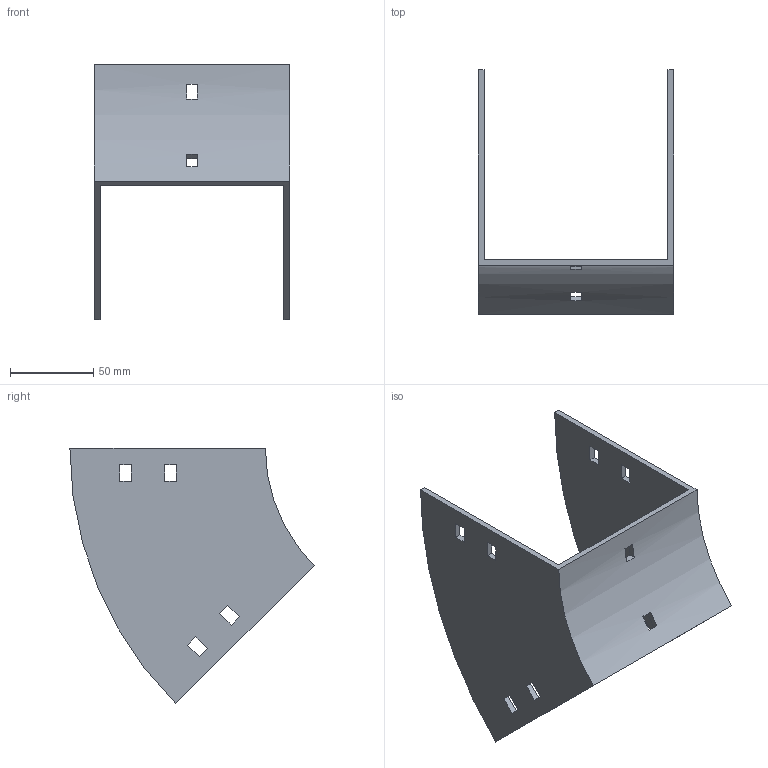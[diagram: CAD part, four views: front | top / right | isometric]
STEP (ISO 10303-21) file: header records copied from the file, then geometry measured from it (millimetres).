
FILE_DESCRIPTION (( 'STEP AP214' ), '1' );
FILE_NAME ('34B1H117.step', '2025-02-21T09:27:41', ( '' ), ( '' ), 'SwSTEP 2.0', 'SolidWorks 2023', '' );
FILE_SCHEMA (( 'AUTOMOTIVE_DESIGN' ));
Length unit declared in the file: millimetre
Products named in the file (1): 34B1H117
Bounding box: 117.5 x 146.79 x 153.8 mm (x, y, z)
Volume: 131082.6 mm3; surface area: 79681.1 mm2
Topology: 1 solids, 1 shells, 50 faces, 144 edges, 96 vertices
Faces by surface type: plane 46, cylinder 4
Entity records: 1687 total; most frequent: CARTESIAN_POINT 291, ORIENTED_EDGE 288, DIRECTION 262, EDGE_CURVE 144, LINE 128, VECTOR 128, VERTEX_POINT 96, EDGE_LOOP 70
